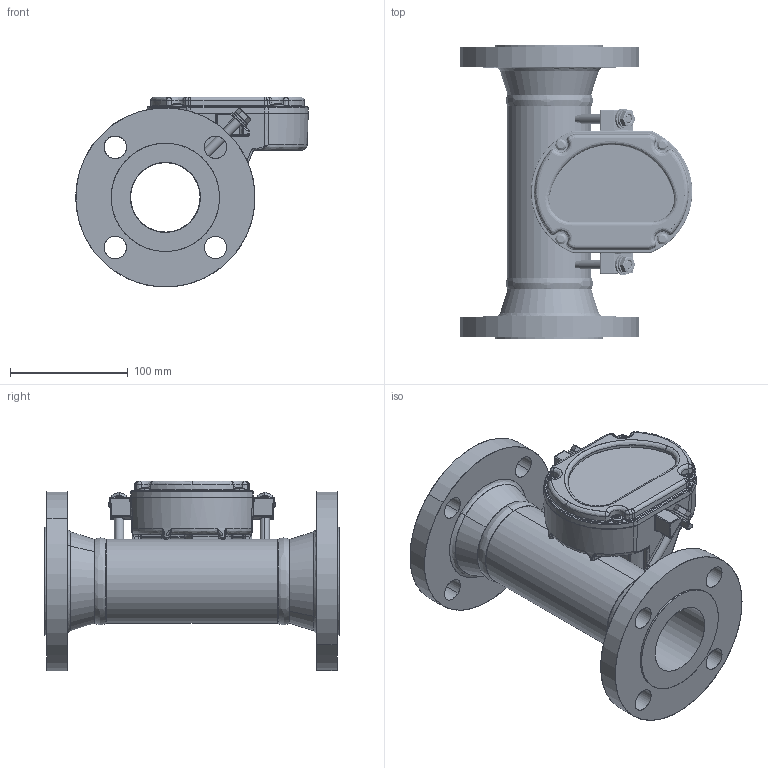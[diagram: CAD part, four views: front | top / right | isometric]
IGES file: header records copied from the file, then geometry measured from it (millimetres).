
Start section: SolidWorks IGES file using analytic representation for surfaces
Global section: file name: C:\Users\jodonnell\OneDrive - Illinois Tool Works, Inc\Desktop\3809G-A-13-F-8-A-0.IGS; native system: SolidWorks 2023; preprocessor: SolidWorks 2023; author: JODonnell; date: 250521.121021; units: millimetre
Bounding box: 197.68 x 250 x 161.54 mm (x, y, z)
Surface area: 314372.6 mm2 (no closed solid volume)
Topology: 0 solids, 0 shells, 1550 faces, 27951 edges, 27891 vertices
Faces by surface type: revolution 796, bspline 754
